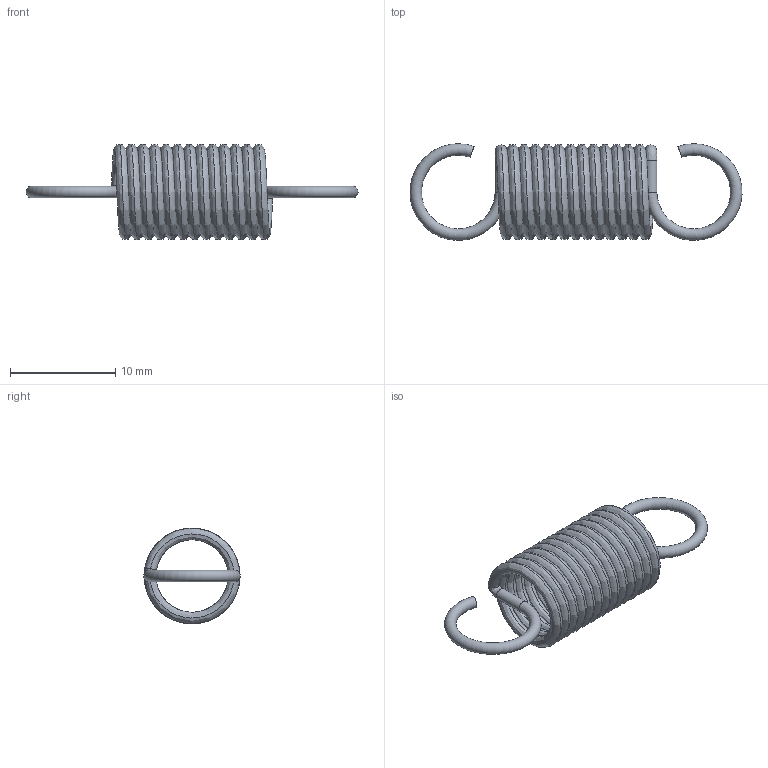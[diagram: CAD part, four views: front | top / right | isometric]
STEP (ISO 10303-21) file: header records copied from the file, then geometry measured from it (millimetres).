
FILE_DESCRIPTION((''),'2;1');
FILE_NAME('I:\Kurz\oerlikon_neu\Fliehkraftkupplung\682Modelle-Ausfuehrung_mit_Passfeder\Modell_Feder_ungespannt_Pos7.stp','2010-05-04T19:54:38',('Administrator'),(''),'Autodesk Inventor 11','Autodesk Inventor 11','');
FILE_SCHEMA(('AUTOMOTIVE_DESIGN { 1 0 10303 214 1 1 1 1 }'));
Length unit declared in the file: millimetre
Products named in the file (1): Pos7_Feder
Bounding box: 31.59 x 9.19 x 9.1 mm (x, y, z)
Volume: 355.8 mm3; surface area: 1297.5 mm2
Topology: 1 solids, 1 shells, 14 faces, 52 edges, 38 vertices
Faces by surface type: bspline 8, torus 2, cylinder 2, plane 2
Full cylindrical faces by diameter (mm): 1.1 x2
Entity records: 6927 total; most frequent: CARTESIAN_POINT 6528, ORIENTED_EDGE 92, DIRECTION 66, EDGE_CURVE 46, VERTEX_POINT 36, AXIS2_PLACEMENT_3D 33, CIRCLE 26, EDGE_LOOP 18
